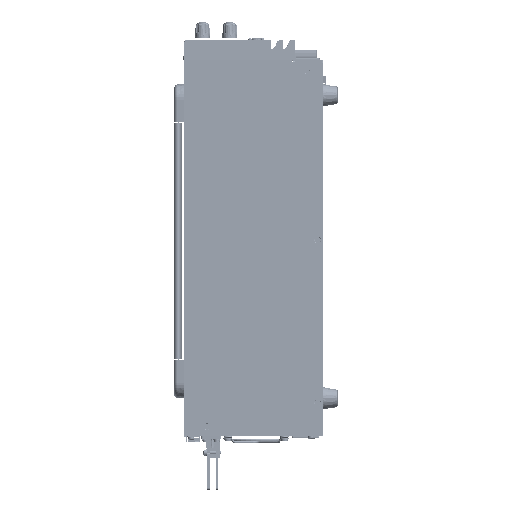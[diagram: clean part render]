
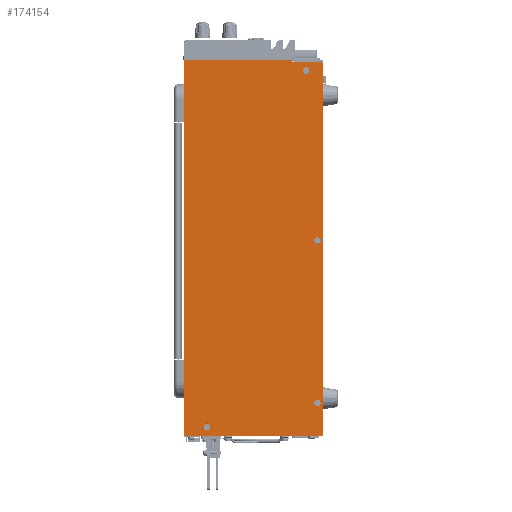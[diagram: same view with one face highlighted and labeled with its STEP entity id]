
A CAD part, left-side view. The second image highlights one B-rep face of the part: STEP entity #174154.
In plain terms, the highlighted planar face has unit normal (-1, 0, 0).
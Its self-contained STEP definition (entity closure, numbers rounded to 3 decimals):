
#172297=CARTESIAN_POINT('',(-106.2,15.2,-9.));
#172298=DIRECTION('',(-1.,0.,0.));
#172299=DIRECTION('',(0.,1.,0.));
#172300=AXIS2_PLACEMENT_3D('',#172297,#172298,#172299);
#172302=CARTESIAN_POINT('',(-106.2,15.2,-9.));
#172303=DIRECTION('',(-1.,0.,0.));
#172304=DIRECTION('',(0.,-1.,0.));
#172305=AXIS2_PLACEMENT_3D('',#172302,#172303,#172304);
#172307=CARTESIAN_POINT('',(-106.2,5.2,-159.));
#172308=DIRECTION('',(-1.,0.,0.));
#172309=DIRECTION('',(0.,1.,0.));
#172310=AXIS2_PLACEMENT_3D('',#172307,#172308,#172309);
#172312=CARTESIAN_POINT('',(-106.2,5.2,-159.));
#172313=DIRECTION('',(-1.,0.,0.));
#172314=DIRECTION('',(0.,-1.,0.));
#172315=AXIS2_PLACEMENT_3D('',#172312,#172313,#172314);
#172317=CARTESIAN_POINT('',(-106.2,5.2,-303.));
#172318=DIRECTION('',(-1.,0.,0.));
#172319=DIRECTION('',(0.,1.,0.));
#172320=AXIS2_PLACEMENT_3D('',#172317,#172318,#172319);
#172322=CARTESIAN_POINT('',(-106.2,5.2,-303.));
#172323=DIRECTION('',(-1.,0.,0.));
#172324=DIRECTION('',(0.,-1.,0.));
#172325=AXIS2_PLACEMENT_3D('',#172322,#172323,#172324);
#172327=CARTESIAN_POINT('',(-106.2,2.5,-3.3));
#172328=DIRECTION('',(-1.,0.,0.));
#172329=DIRECTION('',(0.,-1.,0.));
#172330=AXIS2_PLACEMENT_3D('',#172327,#172328,#172329);
#172332=CARTESIAN_POINT('',(-106.2,2.5,-330.5));
#172333=DIRECTION('',(-1.,0.,0.));
#172334=DIRECTION('',(0.,0.,-1.));
#172335=AXIS2_PLACEMENT_3D('',#172332,#172333,#172334);
#172337=DIRECTION('',(0.,0.,-1.));
#172338=VECTOR('',#172337,332.5);
#172339=CARTESIAN_POINT('',(-106.2,123.,0.));
#172340=LINE('',#172339,#172338);
#172341=DIRECTION('',(0.,0.,-1.));
#172342=VECTOR('',#172341,1.3);
#172343=CARTESIAN_POINT('',(-106.2,27.6,0.));
#172344=LINE('',#172343,#172342);
#172345=DIRECTION('',(0.,1.,0.));
#172346=VECTOR('',#172345,25.1);
#172347=CARTESIAN_POINT('',(-106.2,2.5,-1.3));
#172348=LINE('',#172347,#172346);
#172349=CARTESIAN_POINT('',(-106.2,103.,-324.));
#172350=DIRECTION('',(-1.,0.,0.));
#172351=DIRECTION('',(0.,1.,0.));
#172352=AXIS2_PLACEMENT_3D('',#172349,#172350,#172351);
#172354=CARTESIAN_POINT('',(-106.2,103.,-324.));
#172355=DIRECTION('',(-1.,0.,0.));
#172356=DIRECTION('',(0.,-1.,0.));
#172357=AXIS2_PLACEMENT_3D('',#172354,#172355,#172356);
#173270=DIRECTION('',(0.,-1.,0.));
#173271=VECTOR('',#173270,95.4);
#173272=CARTESIAN_POINT('',(-106.2,123.,0.));
#173273=LINE('',#173272,#173271);
#173306=DIRECTION('',(0.,0.,-1.));
#173307=VECTOR('',#173306,327.2);
#173308=CARTESIAN_POINT('',(-106.2,0.5,-3.3));
#173309=LINE('',#173308,#173307);
#173318=DIRECTION('',(0.,-1.,0.));
#173319=VECTOR('',#173318,120.5);
#173320=CARTESIAN_POINT('',(-106.2,123.,-332.5));
#173321=LINE('',#173320,#173319);
#173707=CARTESIAN_POINT('',(-106.2,123.,0.));
#173708=CARTESIAN_POINT('',(-106.2,123.,-332.5));
#173709=VERTEX_POINT('',#173707);
#173710=VERTEX_POINT('',#173708);
#173731=CARTESIAN_POINT('',(-106.2,27.6,0.));
#173732=CARTESIAN_POINT('',(-106.2,27.6,-1.3));
#173733=VERTEX_POINT('',#173731);
#173734=VERTEX_POINT('',#173732);
#173784=CARTESIAN_POINT('',(-106.2,18.093,-9.));
#173786=VERTEX_POINT('',#173784);
#173788=CARTESIAN_POINT('',(-106.2,12.307,-9.));
#173790=VERTEX_POINT('',#173788);
#173792=CARTESIAN_POINT('',(-106.2,8.093,-159.));
#173794=VERTEX_POINT('',#173792);
#173796=CARTESIAN_POINT('',(-106.2,2.307,-159.));
#173798=VERTEX_POINT('',#173796);
#173800=CARTESIAN_POINT('',(-106.2,8.093,-303.));
#173802=VERTEX_POINT('',#173800);
#173804=CARTESIAN_POINT('',(-106.2,2.307,-303.));
#173806=VERTEX_POINT('',#173804);
#173939=CARTESIAN_POINT('',(-106.2,0.5,-3.3));
#173940=CARTESIAN_POINT('',(-106.2,2.5,-1.3));
#173941=VERTEX_POINT('',#173939);
#173942=VERTEX_POINT('',#173940);
#173947=CARTESIAN_POINT('',(-106.2,2.5,-332.5));
#173948=CARTESIAN_POINT('',(-106.2,0.5,-330.5));
#173949=VERTEX_POINT('',#173947);
#173950=VERTEX_POINT('',#173948);
#173980=CARTESIAN_POINT('',(-106.2,105.893,-324.));
#173982=VERTEX_POINT('',#173980);
#173984=CARTESIAN_POINT('',(-106.2,100.107,-324.));
#173986=VERTEX_POINT('',#173984);
#174107=CARTESIAN_POINT('',(-106.2,123.8,0.));
#174108=DIRECTION('',(-1.,0.,0.));
#174109=DIRECTION('',(0.,-1.,0.));
#174110=AXIS2_PLACEMENT_3D('',#174107,#174108,#174109);
#174111=PLANE('',#174110);
#174113=ORIENTED_EDGE('',*,*,#174112,.F.);
#174115=ORIENTED_EDGE('',*,*,#174114,.T.);
#174117=ORIENTED_EDGE('',*,*,#174116,.F.);
#174119=ORIENTED_EDGE('',*,*,#174118,.F.);
#174121=ORIENTED_EDGE('',*,*,#174120,.F.);
#174123=ORIENTED_EDGE('',*,*,#174122,.T.);
#174125=ORIENTED_EDGE('',*,*,#174124,.T.);
#174127=ORIENTED_EDGE('',*,*,#174126,.F.);
#174128=EDGE_LOOP('',(#174113,#174115,#174117,#174119,#174121,#174123,#174125,
#174127));
#174129=FACE_OUTER_BOUND('',#174128,.F.);
#174131=ORIENTED_EDGE('',*,*,#174130,.T.);
#174133=ORIENTED_EDGE('',*,*,#174132,.T.);
#174134=EDGE_LOOP('',(#174131,#174133));
#174135=FACE_BOUND('',#174134,.F.);
#174137=ORIENTED_EDGE('',*,*,#174136,.T.);
#174139=ORIENTED_EDGE('',*,*,#174138,.T.);
#174140=EDGE_LOOP('',(#174137,#174139));
#174141=FACE_BOUND('',#174140,.F.);
#174143=ORIENTED_EDGE('',*,*,#174142,.T.);
#174145=ORIENTED_EDGE('',*,*,#174144,.T.);
#174146=EDGE_LOOP('',(#174143,#174145));
#174147=FACE_BOUND('',#174146,.F.);
#174149=ORIENTED_EDGE('',*,*,#174148,.T.);
#174151=ORIENTED_EDGE('',*,*,#174150,.T.);
#174152=EDGE_LOOP('',(#174149,#174151));
#174153=FACE_BOUND('',#174152,.F.);
#174154=ADVANCED_FACE('',(#174129,#174135,#174141,#174147,#174153),#174111,.T.);
#172301=CIRCLE('',#172300,2.893);
#172306=CIRCLE('',#172305,2.893);
#172311=CIRCLE('',#172310,2.893);
#172316=CIRCLE('',#172315,2.893);
#172321=CIRCLE('',#172320,2.893);
#172326=CIRCLE('',#172325,2.893);
#172331=CIRCLE('',#172330,2.);
#172336=CIRCLE('',#172335,2.);
#172353=CIRCLE('',#172352,2.893);
#172358=CIRCLE('',#172357,2.893);
#174112=EDGE_CURVE('',#173941,#173942,#172331,.T.);
#174114=EDGE_CURVE('',#173941,#173950,#173309,.T.);
#174116=EDGE_CURVE('',#173949,#173950,#172336,.T.);
#174118=EDGE_CURVE('',#173710,#173949,#173321,.T.);
#174120=EDGE_CURVE('',#173709,#173710,#172340,.T.);
#174122=EDGE_CURVE('',#173709,#173733,#173273,.T.);
#174124=EDGE_CURVE('',#173733,#173734,#172344,.T.);
#174126=EDGE_CURVE('',#173942,#173734,#172348,.T.);
#174130=EDGE_CURVE('',#173794,#173798,#172311,.T.);
#174132=EDGE_CURVE('',#173798,#173794,#172316,.T.);
#174136=EDGE_CURVE('',#173802,#173806,#172321,.T.);
#174138=EDGE_CURVE('',#173806,#173802,#172326,.T.);
#174142=EDGE_CURVE('',#173786,#173790,#172301,.T.);
#174144=EDGE_CURVE('',#173790,#173786,#172306,.T.);
#174148=EDGE_CURVE('',#173982,#173986,#172353,.T.);
#174150=EDGE_CURVE('',#173986,#173982,#172358,.T.);
